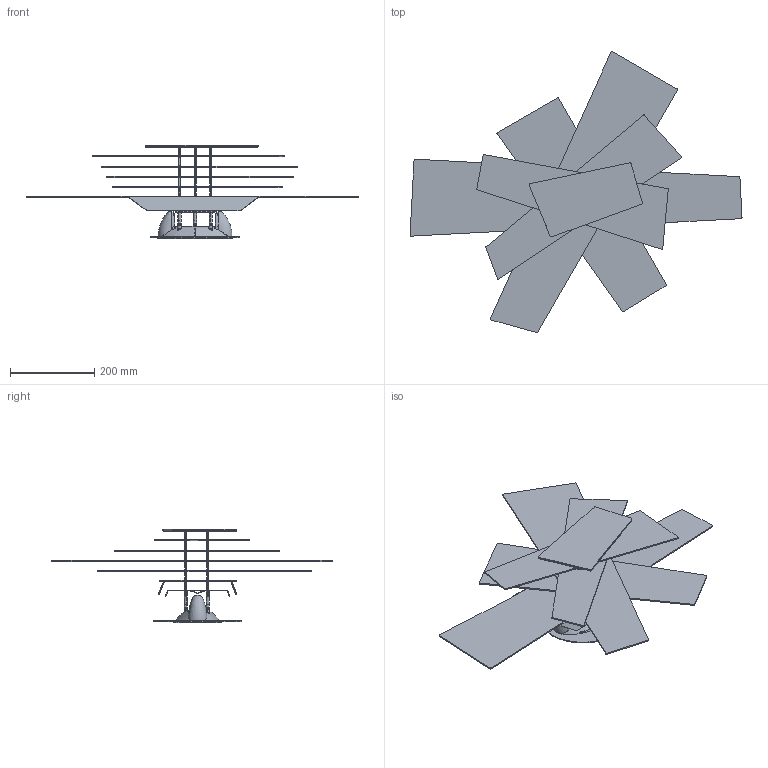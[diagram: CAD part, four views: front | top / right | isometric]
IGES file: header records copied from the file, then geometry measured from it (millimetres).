
Start section: SolidWorks IGES file using analytic representation for surfaces
Global section: file name: X:\stage\BIG BANG\BIG BANG PARETE SOFFITTO.IGS; native system: SolidWorks 2006 by SolidWorks Corporation; preprocessor: SolidWorks 2006 by SolidWorks Corporation; author: stagetec; date: 061002.104504; units: millimetre
Bounding box: 786.67 x 666.09 x 221 mm (x, y, z)
Volume: 1523688.5 mm3; surface area: 1151128.1 mm2
Topology: 34 solids, 34 shells, 1380 faces, 3778 edges, 2440 vertices
Faces by surface type: revolution 740, plane 523, bspline 117
